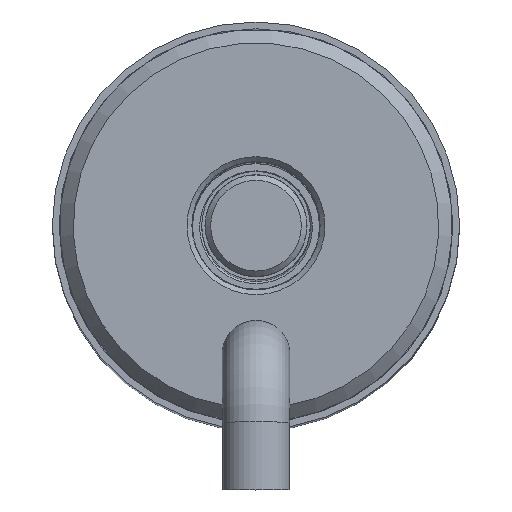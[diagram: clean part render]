
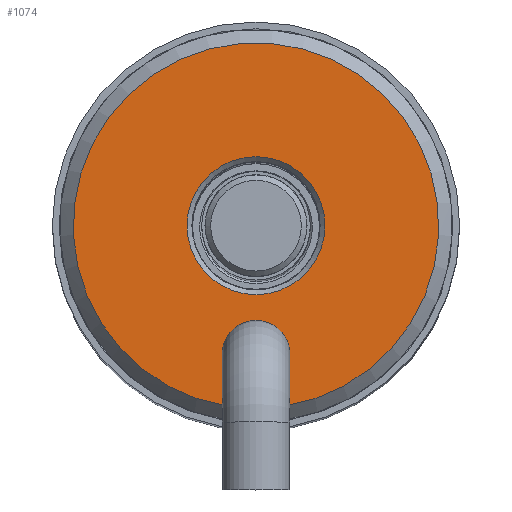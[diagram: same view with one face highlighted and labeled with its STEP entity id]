
A CAD part, top view. The second image highlights one B-rep face of the part: STEP entity #1074.
In plain terms, the highlighted planar face has unit normal (0, 0, 1).
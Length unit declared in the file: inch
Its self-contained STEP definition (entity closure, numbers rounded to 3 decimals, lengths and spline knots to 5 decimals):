
#78=FACE_BOUND('',#214,.T.);
#116=PLANE('',#1254);
#145=FACE_OUTER_BOUND('',#213,.T.);
#213=EDGE_LOOP('',(#719,#720,#721,#722,#723));
#214=EDGE_LOOP('',(#724));
#294=LINE('',#1700,#344);
#297=LINE('',#1710,#347);
#344=VECTOR('',#1401,0.3937);
#347=VECTOR('',#1406,0.3937);
#396=CIRCLE('',#1249,0.0625);
#398=CIRCLE('',#1251,0.0625);
#399=CIRCLE('',#1255,0.3365);
#400=CIRCLE('',#1256,0.127);
#448=VERTEX_POINT('',#1686);
#449=VERTEX_POINT('',#1688);
#452=VERTEX_POINT('',#1694);
#453=VERTEX_POINT('',#1699);
#456=VERTEX_POINT('',#1709);
#457=VERTEX_POINT('',#1712);
#550=EDGE_CURVE('',#449,#448,#396,.T.);
#554=EDGE_CURVE('',#448,#452,#398,.T.);
#555=EDGE_CURVE('',#453,#449,#294,.T.);
#559=EDGE_CURVE('',#452,#456,#297,.T.);
#560=EDGE_CURVE('',#453,#456,#399,.T.);
#561=EDGE_CURVE('',#457,#457,#400,.T.);
#719=ORIENTED_EDGE('',*,*,#550,.T.);
#720=ORIENTED_EDGE('',*,*,#554,.T.);
#721=ORIENTED_EDGE('',*,*,#559,.T.);
#722=ORIENTED_EDGE('',*,*,#560,.F.);
#723=ORIENTED_EDGE('',*,*,#555,.T.);
#724=ORIENTED_EDGE('',*,*,#561,.T.);
#1074=ADVANCED_FACE('',(#145,#78),#116,.T.);
#1249=AXIS2_PLACEMENT_3D('',#1689,#1389,#1390);
#1251=AXIS2_PLACEMENT_3D('',#1696,#1395,#1396);
#1254=AXIS2_PLACEMENT_3D('',#1708,#1404,#1405);
#1255=AXIS2_PLACEMENT_3D('',#1711,#1407,#1408);
#1256=AXIS2_PLACEMENT_3D('',#1713,#1409,#1410);
#1389=DIRECTION('center_axis',(0.,0.,
-1.));
#1390=DIRECTION('ref_axis',(1.,0.,0.));
#1395=DIRECTION('center_axis',(0.,0.,
-1.));
#1396=DIRECTION('ref_axis',(1.,0.,0.));
#1401=DIRECTION('',(0.,1.,0.));
#1404=DIRECTION('center_axis',(0.,0.,
1.));
#1405=DIRECTION('ref_axis',(1.,0.,0.));
#1406=DIRECTION('',(0.,-1.,0.));
#1407=DIRECTION('center_axis',(0.,0.,
-1.));
#1408=DIRECTION('ref_axis',(-1.,0.,0.));
#1409=DIRECTION('center_axis',(0.,0.,
-1.));
#1410=DIRECTION('ref_axis',(-1.,0.,0.));
#1686=CARTESIAN_POINT('',(-0.0625,-0.237,1.62));
#1688=CARTESIAN_POINT('',(-0.053,-0.27012,1.62));
#1689=CARTESIAN_POINT('Origin',(0.,-0.237,1.62));
#1694=CARTESIAN_POINT('',(0.053,-0.27012,1.62));
#1696=CARTESIAN_POINT('Origin',(0.,-0.237,1.62));
#1699=CARTESIAN_POINT('',(-0.053,-0.3323,1.62));
#1700=CARTESIAN_POINT('',(-0.053,0.04975,1.62));
#1708=CARTESIAN_POINT('Origin',(0.,0.3365,1.62));
#1709=CARTESIAN_POINT('',(0.053,-0.3323,1.62));
#1710=CARTESIAN_POINT('',(0.053,-0.01055,1.62));
#1711=CARTESIAN_POINT('Origin',(0.,0.,
1.62));
#1712=CARTESIAN_POINT('',(0.,-0.127,1.62));
#1713=CARTESIAN_POINT('Origin',(0.,0.,
1.62));
